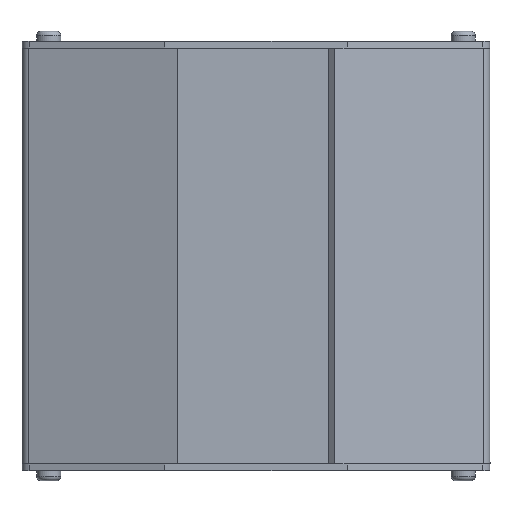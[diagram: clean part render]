
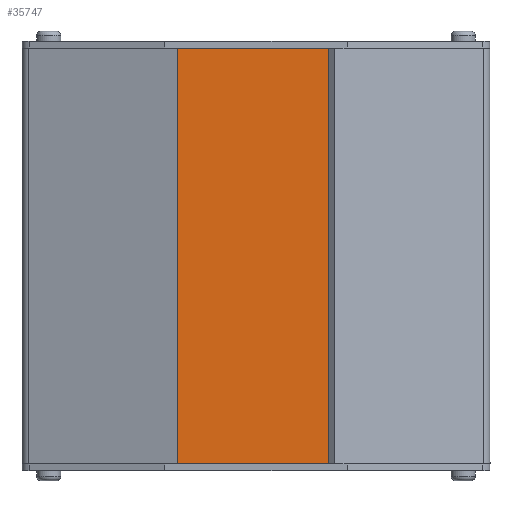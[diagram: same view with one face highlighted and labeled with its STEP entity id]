
A CAD part, front view. The second image highlights one B-rep face of the part: STEP entity #35747.
In plain terms, the highlighted planar face has unit normal (0, -1, 0).
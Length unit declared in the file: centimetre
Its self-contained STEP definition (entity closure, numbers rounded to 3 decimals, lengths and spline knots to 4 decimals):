
#3247=VECTOR('',#41285,1.);
#3398=VECTOR('',#41619,1.);
#3489=VECTOR('',#41895,1.);
#3490=VECTOR('',#41897,1.);
#6662=LINE('',#66871,#3247);
#6813=LINE('',#67298,#3398);
#6904=LINE('',#67590,#3489);
#6905=LINE('',#67592,#3490);
#8069=PLANE('',#69553);
#12283=VERTEX_POINT('',#66870);
#12284=VERTEX_POINT('',#66872);
#12431=VERTEX_POINT('',#67290);
#12435=VERTEX_POINT('',#67297);
#18531=EDGE_CURVE('',#12283,#12284,#6662,.T.);
#18740=EDGE_CURVE('',#12431,#12435,#6813,.T.);
#18895=EDGE_CURVE('',#12283,#12431,#6904,.T.);
#18896=EDGE_CURVE('',#12284,#12435,#6905,.T.);
#29210=ORIENTED_EDGE('',*,*,#18740,.T.);
#29211=ORIENTED_EDGE('',*,*,#18896,.F.);
#29212=ORIENTED_EDGE('',*,*,#18531,.F.);
#29213=ORIENTED_EDGE('',*,*,#18895,.T.);
#31519=EDGE_LOOP('',(#29210,#29211,#29212,#29213));
#33746=FACE_BOUND('',#31519,.T.);
#35747=ADVANCED_FACE('',(#33746),#8069,.T.);
#41285=DIRECTION('',(1.,0.,0.));
#41619=DIRECTION('',(1.,0.,0.));
#41895=DIRECTION('',(0.,0.,-1.));
#41896=DIRECTION('',(0.,-1.,0.));
#41897=DIRECTION('',(0.,0.,-1.));
#66870=CARTESIAN_POINT('',(-1.6199,-1.1932,0.));
#66871=CARTESIAN_POINT('',(-1.6199,-1.1932,0.));
#66872=CARTESIAN_POINT('',(2.0612,-1.1932,0.));
#67290=CARTESIAN_POINT('',(-1.6199,-1.1932,-9.335));
#67297=CARTESIAN_POINT('',(2.0612,-1.1932,-9.335));
#67298=CARTESIAN_POINT('',(-1.6199,-1.1932,-9.335));
#67590=CARTESIAN_POINT('',(-1.6199,-1.1932,0.));
#67591=CARTESIAN_POINT('',(0.2206,-1.1932,0.));
#67592=CARTESIAN_POINT('',(2.0612,-1.1932,0.));
#69553=AXIS2_PLACEMENT_3D('',#67591,#41896,$);
